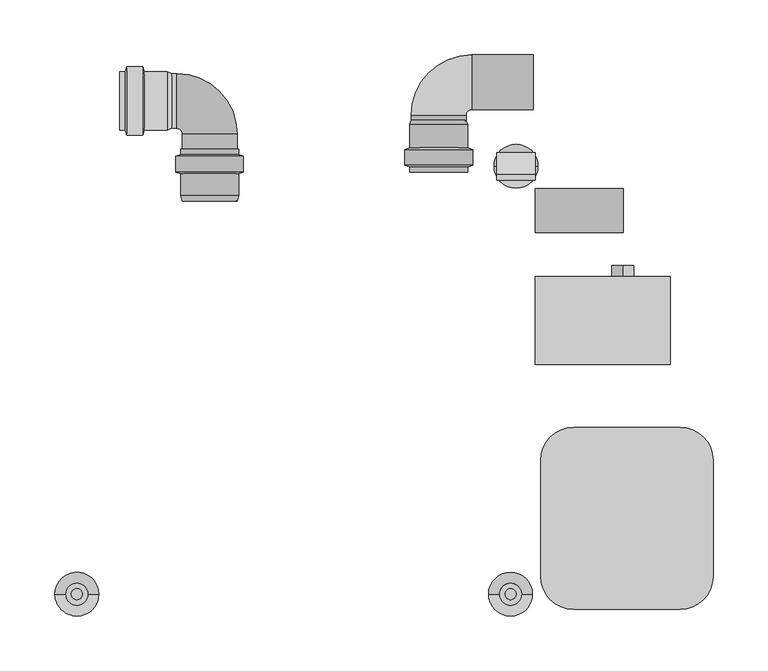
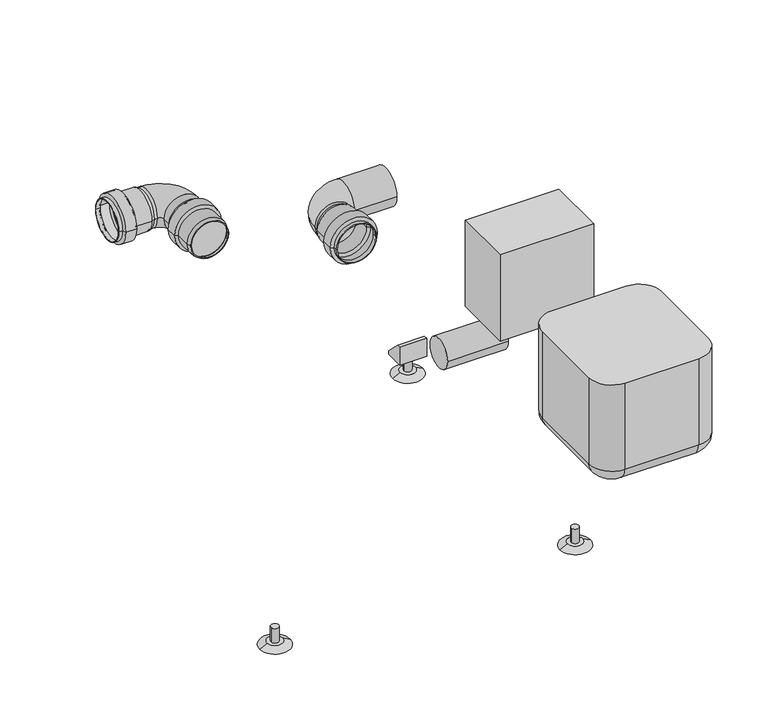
"""IFC4 building model written with IfcOpenShell, lengths in millimetres: unitary equipment geometry, ME_ST_UN_AGC grease capture_ACO : AGC 050 Push-fit HT / ACO pipe (OD 50mm)."""

from ifc_helpers import new_model, si_unit, point, frame, frame_2d, origin, place, context, project, spatial, polyline, circle_curve, ellipse_curve, trimmed, segment, composite_curve, outline, extrude, source, transform, mapped, element, save
from ifc_brep_helpers import plane_surface, cylinder_surface, revolved_surface, advanced_brep


def unitary_equipment_5b484c78(model_context):
    return source(origin(), model_context, "Body", "SolidModel", [
        advanced_brep(
        [(-158.5, 246.5, 303.0), (-158.5, 297.5, 303.0), (-152.9, 297.5, 303.0), (-152.9, 246.5, 303.0), (-158.5, 245.5, 303.0), (-158.5, 298.5, 303.0), (-153.6057737, 245.5, 303.0), (-153.6057737, 298.5, 303.0), (-152.0057737, 241.0, 303.0), (-152.0057737, 303.0, 303.0), (-137.6792408, 241.0, 303.0), (-137.6792408, 303.0, 303.0), (-136.1792408, 245.5, 303.0), (-136.1792408, 298.5, 303.0), (-115.1097736, 245.5, 303.0), (-115.1097736, 298.5, 303.0), (-111.1328335, 247.0698448, 303.0), (-111.1328335, 296.9301552, 303.0), (-111.5, 248.0, 303.0), (-111.5, 296.0, 303.0), (-115.3, 246.5, 303.0), (-115.3, 297.5, 303.0), (-136.9, 246.5, 303.0), (-136.9, 297.5, 303.0), (-138.4, 242.0, 303.0), (-138.4, 302.0, 303.0), (-151.3, 242.0, 303.0), (-151.3, 302.0, 303.0)],
        [
            (0, 1, circle_curve(frame((-158.5, 272.0, 303.0), z_axis=(-1.0, 0.0, 0.0), x_axis=(0.0, 1.0, 0.0)), 25.5)),
            (1, 2),
            (2, 3, circle_curve(frame((-152.9, 272.0, 303.0), z_axis=(1.0, 0.0, 0.0), x_axis=(0.0, 1.0, 0.0)), 25.5)),
            (3, 0),
            (1, 0, circle_curve(frame((-158.5, 272.0, 303.0), z_axis=(-1.0, 0.0, 0.0), x_axis=(0.0, 1.0, 0.0)), 25.5)),
            (3, 2, circle_curve(frame((-152.9, 272.0, 303.0), z_axis=(1.0, 0.0, 0.0), x_axis=(0.0, 1.0, 0.0)), 25.5)),
            (4, 5, circle_curve(frame((-158.5, 272.0, 303.0), z_axis=(-1.0, 0.0, 0.0), x_axis=(0.0, 1.0, 0.0)), 26.5)),
            (5, 1),
            (0, 4),
            (5, 4, circle_curve(frame((-158.5, 272.0, 303.0), z_axis=(-1.0, 0.0, 0.0), x_axis=(0.0, 1.0, 0.0)), 26.5)),
            (6, 7, circle_curve(frame((-153.6057737, 272.0, 303.0), z_axis=(-1.0, 0.0, 0.0), x_axis=(0.0, 1.0, 0.0)), 26.5)),
            (7, 5),
            (4, 6),
            (7, 6, circle_curve(frame((-153.6057737, 272.0, 303.0), z_axis=(-1.0, 0.0, 0.0), x_axis=(0.0, 1.0, 0.0)), 26.5)),
            (8, 9, circle_curve(frame((-152.0057737, 272.0, 303.0), z_axis=(-1.0, 0.0, 0.0), x_axis=(0.0, 1.0, 0.0)), 31.0)),
            (9, 7),
            (6, 8),
            (9, 8, circle_curve(frame((-152.0057737, 272.0, 303.0), z_axis=(-1.0, 0.0, 0.0), x_axis=(0.0, 1.0, 0.0)), 31.0)),
            (10, 11, circle_curve(frame((-137.6792408, 272.0, 303.0), z_axis=(-1.0, 0.0, 0.0), x_axis=(0.0, 1.0, 0.0)), 31.0)),
            (11, 9),
            (8, 10),
            (11, 10, circle_curve(frame((-137.6792408, 272.0, 303.0), z_axis=(-1.0, 0.0, 0.0), x_axis=(0.0, 1.0, 0.0)), 31.0)),
            (12, 13, circle_curve(frame((-136.1792408, 272.0, 303.0), z_axis=(-1.0, 0.0, 0.0), x_axis=(0.0, 1.0, 0.0)), 26.5)),
            (13, 11),
            (10, 12),
            (13, 12, circle_curve(frame((-136.1792408, 272.0, 303.0), z_axis=(-1.0, 0.0, 0.0), x_axis=(0.0, 1.0, 0.0)), 26.5)),
            (14, 15, circle_curve(frame((-115.1097736, 272.0, 303.0), z_axis=(-1.0, 0.0, 0.0), x_axis=(0.0, 1.0, 0.0)), 26.5)),
            (15, 13),
            (12, 14),
            (15, 14, circle_curve(frame((-115.1097736, 272.0, 303.0), z_axis=(-1.0, 0.0, 0.0), x_axis=(0.0, 1.0, 0.0)), 26.5)),
            (16, 17, circle_curve(frame((-111.1328335, 272.0, 303.0), z_axis=(-1.0, 0.0, 0.0), x_axis=(0.0, 1.0, 0.0)), 24.9301552)),
            (17, 15),
            (14, 16),
            (17, 16, circle_curve(frame((-111.1328335, 272.0, 303.0), z_axis=(-1.0, 0.0, 0.0), x_axis=(0.0, 1.0, 0.0)), 24.9301552)),
            (18, 19, circle_curve(frame((-111.5, 272.0, 303.0), z_axis=(-1.0, 0.0, 0.0), x_axis=(0.0, 1.0, 0.0)), 24.0)),
            (19, 17),
            (16, 18),
            (19, 18, circle_curve(frame((-111.5, 272.0, 303.0), z_axis=(-1.0, 0.0, 0.0), x_axis=(0.0, 1.0, 0.0)), 24.0)),
            (20, 21, circle_curve(frame((-115.3, 272.0, 303.0), z_axis=(-1.0, 0.0, 0.0), x_axis=(0.0, 1.0, 0.0)), 25.5)),
            (21, 19),
            (18, 20),
            (21, 20, circle_curve(frame((-115.3, 272.0, 303.0), z_axis=(-1.0, 0.0, 0.0), x_axis=(0.0, 1.0, 0.0)), 25.5)),
            (22, 23, circle_curve(frame((-136.9, 272.0, 303.0), z_axis=(-1.0, 0.0, 0.0), x_axis=(0.0, 1.0, 0.0)), 25.5)),
            (23, 21),
            (20, 22),
            (23, 22, circle_curve(frame((-136.9, 272.0, 303.0), z_axis=(-1.0, 0.0, 0.0), x_axis=(0.0, 1.0, 0.0)), 25.5)),
            (24, 25, circle_curve(frame((-138.4, 272.0, 303.0), z_axis=(-1.0, 0.0, 0.0), x_axis=(0.0, 1.0, 0.0)), 30.0)),
            (25, 23),
            (22, 24),
            (25, 24, circle_curve(frame((-138.4, 272.0, 303.0), z_axis=(-1.0, 0.0, 0.0), x_axis=(0.0, 1.0, 0.0)), 30.0)),
            (26, 27, circle_curve(frame((-151.3, 272.0, 303.0), z_axis=(-1.0, 0.0, 0.0), x_axis=(0.0, 1.0, 0.0)), 30.0)),
            (27, 25),
            (24, 26),
            (27, 26, circle_curve(frame((-151.3, 272.0, 303.0), z_axis=(-1.0, 0.0, 0.0), x_axis=(0.0, 1.0, 0.0)), 30.0)),
            (2, 27),
            (26, 3),
        ],
        [
            revolved_surface(polyline([(-152.9, 297.5, 303.0), (-158.5, 297.5, 303.0)]), (-99.031054, 272.0, 303.0), (1.0, 0.0, 0.0)),
            plane_surface(frame((-158.5, 272.0, 303.0), z_axis=(-1.0, 0.0, 0.0), x_axis=(0.0, 1.0, 0.0))),
            cylinder_surface(frame((-99.031054, 272.0, 303.0), z_axis=(1.0, 0.0, 0.0), x_axis=(0.0, 1.0, 0.0)), 26.5),
            revolved_surface(polyline([(-153.6057737, 298.5, 303.0), (-152.0057737, 303.0, 303.0)]), (-99.031054, 272.0, 303.0), (1.0, 0.0, 0.0)),
            cylinder_surface(frame((-99.031054, 272.0, 303.0), z_axis=(1.0, 0.0, 0.0), x_axis=(0.0, 1.0, 0.0)), 31.0),
            revolved_surface(polyline([(-137.6792408, 303.0, 303.0), (-136.1792408, 298.5, 303.0)]), (-99.031054, 272.0, 303.0), (1.0, 0.0, 0.0)),
            revolved_surface(polyline([(-115.1097736, 298.5, 303.0), (-111.1328335, 296.9301552, 303.0)]), (-99.031054, 272.0, 303.0), (1.0, 0.0, 0.0)),
            revolved_surface(polyline([(-111.1328335, 296.9301552, 303.0), (-111.5, 296.0, 303.0)]), (-99.031054, 272.0, 303.0), (1.0, 0.0, 0.0)),
            revolved_surface(polyline([(-111.5, 296.0, 303.0), (-115.3, 297.5, 303.0)]), (-99.031054, 272.0, 303.0), (1.0, 0.0, 0.0)),
            revolved_surface(polyline([(-115.3, 297.5, 303.0), (-136.9, 297.5, 303.0)]), (-99.031054, 272.0, 303.0), (1.0, 0.0, 0.0)),
            revolved_surface(polyline([(-136.9, 297.5, 303.0), (-138.4, 302.0, 303.0)]), (-99.031054, 272.0, 303.0), (1.0, 0.0, 0.0)),
            revolved_surface(polyline([(-138.4, 302.0, 303.0), (-151.3, 302.0, 303.0)]), (-99.031054, 272.0, 303.0), (1.0, 0.0, 0.0)),
            revolved_surface(polyline([(-151.3, 302.0, 303.0), (-152.9, 297.5, 303.0)]), (-99.031054, 272.0, 303.0), (1.0, 0.0, 0.0)),
        ],
        [
            (0, [[1, 2, 3, 4]]),
            (0, [[5, -4, 6, -2]]),
            (1, [[7, 8, -1, 9]]),
            (1, [[10, -9, -5, -8]]),
            (2, [[11, 12, -7, 13]]),
            (2, [[14, -13, -10, -12]]),
            (3, [[15, 16, -11, 17]]),
            (3, [[18, -17, -14, -16]]),
            (4, [[19, 20, -15, 21]]),
            (4, [[22, -21, -18, -20]]),
            (5, [[23, 24, -19, 25]]),
            (5, [[26, -25, -22, -24]]),
            (2, [[27, 28, -23, 29]]),
            (2, [[30, -29, -26, -28]]),
            (6, [[31, 32, -27, 33]]),
            (6, [[34, -33, -30, -32]]),
            (7, [[35, 36, -31, 37]]),
            (7, [[38, -37, -34, -36]]),
            (8, [[39, 40, -35, 41]]),
            (8, [[42, -41, -38, -40]]),
            (9, [[43, 44, -39, 45]]),
            (9, [[46, -45, -42, -44]]),
            (10, [[47, 48, -43, 49]]),
            (10, [[50, -49, -46, -48]]),
            (11, [[51, 52, -47, 53]]),
            (11, [[54, -53, -50, -52]]),
            (12, [[-3, 55, -51, 56]]),
            (12, [[-6, -56, -54, -55]]),
        ],
    ),
        advanced_brep(
        [(-46.5, 220.8, 303.0), (-106.5, 220.8, 303.0), (-102.0, 222.4, 303.0), (-51.0, 222.4, 303.0), (-46.5, 207.9, 303.0), (-106.5, 207.9, 303.0), (-51.0, 206.4, 303.0), (-102.0, 206.4, 303.0), (-51.0, 186.0, 303.0), (-102.0, 186.0, 303.0), (-52.5, 181.0, 303.0), (-100.5, 181.0, 303.0), (-51.5421737, 180.7126521, 303.0), (-101.4578263, 180.7126521, 303.0), (-50.0, 185.8532312, 303.0), (-103.0, 185.8532312, 303.0), (-50.0, 205.6792408, 303.0), (-103.0, 205.6792408, 303.0), (-45.7425527, 207.0983899, 303.0), (-107.2574473, 207.0983899, 303.0), (-45.7425527, 221.5920147, 303.0), (-107.2574473, 221.5920147, 303.0), (-50.0, 223.1057737, 303.0), (-103.0, 223.1057737, 303.0), (-50.0, 228.0, 303.0), (-103.0, 228.0, 303.0), (-51.0, 228.0, 303.0), (-102.0, 228.0, 303.0)],
        [
            (0, 1, circle_curve(frame((-76.5, 220.8, 303.0), z_axis=(0.0, -1.0, 0.0), x_axis=(-1.0, 0.0, 0.0)), 30.0)),
            (1, 2),
            (2, 3, circle_curve(frame((-76.5, 222.4, 303.0), z_axis=(0.0, 1.0, 0.0), x_axis=(-1.0, 0.0, 0.0)), 25.5)),
            (3, 0),
            (1, 0, circle_curve(frame((-76.5, 220.8, 303.0), z_axis=(0.0, -1.0, 0.0), x_axis=(-1.0, 0.0, 0.0)), 30.0)),
            (3, 2, circle_curve(frame((-76.5, 222.4, 303.0), z_axis=(0.0, 1.0, 0.0), x_axis=(-1.0, 0.0, 0.0)), 25.5)),
            (4, 5, circle_curve(frame((-76.5, 207.9, 303.0), z_axis=(0.0, -1.0, 0.0), x_axis=(-1.0, 0.0, 0.0)), 30.0)),
            (5, 1),
            (0, 4),
            (5, 4, circle_curve(frame((-76.5, 207.9, 303.0), z_axis=(0.0, -1.0, 0.0), x_axis=(-1.0, 0.0, 0.0)), 30.0)),
            (6, 7, circle_curve(frame((-76.5, 206.4, 303.0), z_axis=(0.0, -1.0, 0.0), x_axis=(-1.0, 0.0, 0.0)), 25.5)),
            (7, 5),
            (4, 6),
            (7, 6, circle_curve(frame((-76.5, 206.4, 303.0), z_axis=(0.0, -1.0, 0.0), x_axis=(-1.0, 0.0, 0.0)), 25.5)),
            (8, 9, circle_curve(frame((-76.5, 186.0, 303.0), z_axis=(0.0, -1.0, 0.0), x_axis=(-1.0, 0.0, 0.0)), 25.5)),
            (9, 7),
            (6, 8),
            (9, 8, circle_curve(frame((-76.5, 186.0, 303.0), z_axis=(0.0, -1.0, 0.0), x_axis=(-1.0, 0.0, 0.0)), 25.5)),
            (10, 11, circle_curve(frame((-76.5, 181.0, 303.0), z_axis=(0.0, -1.0, 0.0), x_axis=(-1.0, 0.0, 0.0)), 24.0)),
            (11, 9),
            (8, 10),
            (11, 10, circle_curve(frame((-76.5, 181.0, 303.0), z_axis=(0.0, -1.0, 0.0), x_axis=(-1.0, 0.0, 0.0)), 24.0)),
            (12, 13, circle_curve(frame((-76.5, 180.7126521, 303.0), z_axis=(0.0, -1.0, 0.0), x_axis=(-1.0, 0.0, 0.0)), 24.9578263)),
            (13, 11),
            (10, 12),
            (13, 12, circle_curve(frame((-76.5, 180.7126521, 303.0), z_axis=(0.0, -1.0, 0.0), x_axis=(-1.0, 0.0, 0.0)), 24.9578263)),
            (14, 15, circle_curve(frame((-76.5, 185.8532312, 303.0), z_axis=(0.0, -1.0, 0.0), x_axis=(-1.0, 0.0, 0.0)), 26.5)),
            (15, 13),
            (12, 14),
            (15, 14, circle_curve(frame((-76.5, 185.8532312, 303.0), z_axis=(0.0, -1.0, 0.0), x_axis=(-1.0, 0.0, 0.0)), 26.5)),
            (16, 17, circle_curve(frame((-76.5, 205.6792408, 303.0), z_axis=(0.0, -1.0, 0.0), x_axis=(-1.0, 0.0, 0.0)), 26.5)),
            (17, 15),
            (14, 16),
            (17, 16, circle_curve(frame((-76.5, 205.6792408, 303.0), z_axis=(0.0, -1.0, 0.0), x_axis=(-1.0, 0.0, 0.0)), 26.5)),
            (18, 19, circle_curve(frame((-76.5, 207.0983899, 303.0), z_axis=(0.0, -1.0, 0.0), x_axis=(-1.0, 0.0, 0.0)), 30.7574473)),
            (19, 17),
            (16, 18),
            (19, 18, circle_curve(frame((-76.5, 207.0983899, 303.0), z_axis=(0.0, -1.0, 0.0), x_axis=(-1.0, 0.0, 0.0)), 30.7574473)),
            (20, 21, circle_curve(frame((-76.5, 221.5920147, 303.0), z_axis=(0.0, -1.0, 0.0), x_axis=(-1.0, 0.0, 0.0)), 30.7574473)),
            (21, 19),
            (18, 20),
            (21, 20, circle_curve(frame((-76.5, 221.5920147, 303.0), z_axis=(0.0, -1.0, 0.0), x_axis=(-1.0, 0.0, 0.0)), 30.7574473)),
            (22, 23, circle_curve(frame((-76.5, 223.1057737, 303.0), z_axis=(0.0, -1.0, 0.0), x_axis=(-1.0, 0.0, 0.0)), 26.5)),
            (23, 21),
            (20, 22),
            (23, 22, circle_curve(frame((-76.5, 223.1057737, 303.0), z_axis=(0.0, -1.0, 0.0), x_axis=(-1.0, 0.0, 0.0)), 26.5)),
            (24, 25, circle_curve(frame((-76.5, 228.0, 303.0), z_axis=(0.0, -1.0, 0.0), x_axis=(-1.0, 0.0, 0.0)), 26.5)),
            (25, 23),
            (22, 24),
            (25, 24, circle_curve(frame((-76.5, 228.0, 303.0), z_axis=(0.0, -1.0, 0.0), x_axis=(-1.0, 0.0, 0.0)), 26.5)),
            (26, 27, circle_curve(frame((-76.5, 228.0, 303.0), z_axis=(0.0, -1.0, 0.0), x_axis=(-1.0, 0.0, 0.0)), 25.5)),
            (27, 25),
            (24, 26),
            (27, 26, circle_curve(frame((-76.5, 228.0, 303.0), z_axis=(0.0, -1.0, 0.0), x_axis=(-1.0, 0.0, 0.0)), 25.5)),
            (2, 27),
            (26, 3),
        ],
        [
            revolved_surface(polyline([(-102.0, 222.4, 303.0), (-106.5, 220.8, 303.0)]), (-76.5, 225.2050583, 303.0), (0.0, 1.0, 0.0)),
            revolved_surface(polyline([(-106.5, 220.8, 303.0), (-106.5, 207.9, 303.0)]), (-76.5, 225.2050583, 303.0), (0.0, 1.0, 0.0)),
            revolved_surface(polyline([(-106.5, 207.9, 303.0), (-102.0, 206.4, 303.0)]), (-76.5, 225.2050583, 303.0), (0.0, 1.0, 0.0)),
            revolved_surface(polyline([(-102.0, 206.4, 303.0), (-102.0, 186.0, 303.0)]), (-76.5, 225.2050583, 303.0), (0.0, 1.0, 0.0)),
            revolved_surface(polyline([(-102.0, 186.0, 303.0), (-100.5, 181.0, 303.0)]), (-76.5, 225.2050583, 303.0), (0.0, 1.0, 0.0)),
            revolved_surface(polyline([(-100.5, 181.0, 303.0), (-101.4578263, 180.7126521, 303.0)]), (-76.5, 225.2050583, 303.0), (0.0, 1.0, 0.0)),
            revolved_surface(polyline([(-101.4578263, 180.7126521, 303.0), (-103.0, 185.8532312, 303.0)]), (-76.5, 225.2050583, 303.0), (0.0, 1.0, 0.0)),
            cylinder_surface(frame((-76.5, 225.2050583, 303.0), z_axis=(0.0, 1.0, 0.0), x_axis=(-1.0, 0.0, 0.0)), 26.5),
            revolved_surface(polyline([(-103.0, 205.6792408, 303.0), (-107.2574473, 207.0983899, 303.0)]), (-76.5, 225.2050583, 303.0), (0.0, 1.0, 0.0)),
            cylinder_surface(frame((-76.5, 225.2050583, 303.0), z_axis=(0.0, 1.0, 0.0), x_axis=(-1.0, 0.0, 0.0)), 30.7574473),
            revolved_surface(polyline([(-107.2574473, 221.5920147, 303.0), (-103.0, 223.1057737, 303.0)]), (-76.5, 225.2050583, 303.0), (0.0, 1.0, 0.0)),
            plane_surface(frame((-76.5, 228.0, 303.0), z_axis=(0.0, 1.0, 0.0), x_axis=(-1.0, 0.0, 0.0))),
            revolved_surface(polyline([(-102.0, 228.0, 303.0), (-102.0, 222.4, 303.0)]), (-76.5, 225.2050583, 303.0), (0.0, 1.0, 0.0)),
        ],
        [
            (0, [[1, 2, 3, 4]]),
            (0, [[5, -4, 6, -2]]),
            (1, [[7, 8, -1, 9]]),
            (1, [[10, -9, -5, -8]]),
            (2, [[11, 12, -7, 13]]),
            (2, [[14, -13, -10, -12]]),
            (3, [[15, 16, -11, 17]]),
            (3, [[18, -17, -14, -16]]),
            (4, [[19, 20, -15, 21]]),
            (4, [[22, -21, -18, -20]]),
            (5, [[23, 24, -19, 25]]),
            (5, [[26, -25, -22, -24]]),
            (6, [[27, 28, -23, 29]]),
            (6, [[30, -29, -26, -28]]),
            (7, [[31, 32, -27, 33]]),
            (7, [[34, -33, -30, -32]]),
            (8, [[35, 36, -31, 37]]),
            (8, [[38, -37, -34, -36]]),
            (9, [[39, 40, -35, 41]]),
            (9, [[42, -41, -38, -40]]),
            (10, [[43, 44, -39, 45]]),
            (10, [[46, -45, -42, -44]]),
            (7, [[47, 48, -43, 49]]),
            (7, [[50, -49, -46, -48]]),
            (11, [[51, 52, -47, 53]]),
            (11, [[54, -53, -50, -52]]),
            (12, [[-3, 55, -51, 56]]),
            (12, [[-6, -56, -54, -55]]),
        ],
    ),
        advanced_brep(
        [(-101.5, 242.0, 303.0), (-106.5, 247.0, 303.0), (-106.5, 297.0, 303.0), (-51.5, 242.0, 303.0), (-116.5, 297.0, 303.0), (-116.5, 247.0, 303.0), (-51.5, 186.0, 303.0), (-101.5, 186.0, 303.0)],
        [
            (0, 1, circle_curve(frame((-106.5, 242.0, 303.0), z_axis=(0.0, 0.0, 1.0), x_axis=(0.0, 1.0, 0.0)), 5.0)),
            (1, 2, circle_curve(frame((-106.5, 272.0, 303.0), z_axis=(1.0, 0.0, 0.0), x_axis=(0.0, -1.0, 0.0)), 25.0)),
            (2, 3, circle_curve(frame((-106.5, 242.0, 303.0), z_axis=(0.0, 0.0, -1.0), x_axis=(0.0, 1.0, 0.0)), 55.0)),
            (3, 0, circle_curve(frame((-76.5, 242.0, 303.0), z_axis=(0.0, 1.0, 0.0), x_axis=(-1.0, 0.0, 0.0)), 25.0)),
            (0, 3, circle_curve(frame((-76.5, 242.0, 303.0), z_axis=(0.0, 1.0, 0.0), x_axis=(-1.0, 0.0, 0.0)), 25.0)),
            (2, 1, circle_curve(frame((-106.5, 272.0, 303.0), z_axis=(1.0, 0.0, 0.0), x_axis=(0.0, -1.0, 0.0)), 25.0)),
            (4, 5, circle_curve(frame((-116.5, 272.0, 303.0), z_axis=(-1.0, 0.0, 0.0), x_axis=(0.0, -1.0, 0.0)), 25.0)),
            (5, 4, circle_curve(frame((-116.5, 272.0, 303.0), z_axis=(-1.0, 0.0, 0.0), x_axis=(0.0, -1.0, 0.0)), 25.0)),
            (5, 1),
            (2, 4),
            (6, 7, circle_curve(frame((-76.5, 186.0, 303.0), z_axis=(0.0, -1.0, 0.0), x_axis=(-1.0, 0.0, 0.0)), 25.0)),
            (7, 6, circle_curve(frame((-76.5, 186.0, 303.0), z_axis=(0.0, -1.0, 0.0), x_axis=(-1.0, 0.0, 0.0)), 25.0)),
            (7, 0),
            (3, 6),
        ],
        [
            revolved_surface(trimmed(ellipse_curve(frame((-106.5, 272.0, 303.0), z_axis=(-1.0, 0.0, 0.0), x_axis=(0.0, -1.0, 0.0)), 25.0, 25.0), [point((-106.5, 297.0, 303.0))], [point((-106.5, 247.0, 303.0))], True, "CARTESIAN"), (-106.5, 242.0, 303.0), (0.0, 0.0, -1.0)),
            revolved_surface(trimmed(ellipse_curve(frame((-106.5, 272.0, 303.0), z_axis=(-1.0, 0.0, 0.0), x_axis=(0.0, -1.0, 0.0)), 25.0, 25.0), [point((-106.5, 247.0, 303.0))], [point((-106.5, 297.0, 303.0))], True, "CARTESIAN"), (-106.5, 242.0, 303.0), (0.0, 0.0, -1.0)),
            plane_surface(frame((-116.5, 247.0, 303.0), z_axis=(-1.0, 0.0, 0.0), x_axis=(0.0, 0.0, 1.0))),
            cylinder_surface(frame((-116.5, 272.0, 303.0), z_axis=(1.0, 0.0, 0.0), x_axis=(0.0, -1.0, 0.0)), 25.0),
            plane_surface(frame((-76.5, 186.0, 303.0), z_axis=(0.0, -1.0, 0.0), x_axis=(0.0, 0.0, -1.0))),
            cylinder_surface(frame((-76.5, 242.0, 303.0), z_axis=(0.0, 1.0, 0.0), x_axis=(-1.0, 0.0, 0.0)), 25.0),
        ],
        [
            (0, [[1, 2, 3, 4]]),
            (1, [[-1, 5, -3, 6]]),
            (2, [[7, 8]]),
            (3, [[-8, 9, -6, 10]]),
            (3, [[-7, -10, -2, -9]]),
            (4, [[11, 12]]),
            (5, [[-12, 13, -4, 14]]),
            (5, [[-11, -14, -5, -13]]),
        ],
    ),
        advanced_brep(
        [(106.5, 207.0, 209.0), (157.5, 207.0, 209.0), (157.5, 212.6, 209.0), (106.5, 212.6, 209.0), (105.5, 207.0, 209.0), (158.5, 207.0, 209.0), (105.5, 211.8942263, 209.0), (158.5, 211.8942263, 209.0), (101.0, 213.4942263, 209.0), (163.0, 213.4942263, 209.0), (101.0, 227.8207592, 209.0), (163.0, 227.8207592, 209.0), (105.5, 229.3207592, 209.0), (158.5, 229.3207592, 209.0), (105.5, 250.3902264, 209.0), (158.5, 250.3902264, 209.0), (107.0698448, 254.3671665, 209.0), (156.9301552, 254.3671665, 209.0), (108.0, 254.0, 209.0), (156.0, 254.0, 209.0), (106.5, 250.2, 209.0), (157.5, 250.2, 209.0), (106.5, 228.6, 209.0), (157.5, 228.6, 209.0), (102.0, 227.1, 209.0), (162.0, 227.1, 209.0), (102.0, 214.2, 209.0), (162.0, 214.2, 209.0)],
        [
            (0, 1, circle_curve(frame((132.0, 207.0, 209.0), z_axis=(0.0, -1.0, 0.0), x_axis=(1.0, 0.0, 0.0)), 25.5)),
            (1, 2),
            (2, 3, circle_curve(frame((132.0, 212.6, 209.0), z_axis=(0.0, 1.0, 0.0), x_axis=(1.0, 0.0, 0.0)), 25.5)),
            (3, 0),
            (1, 0, circle_curve(frame((132.0, 207.0, 209.0), z_axis=(0.0, -1.0, 0.0), x_axis=(1.0, 0.0, 0.0)), 25.5)),
            (3, 2, circle_curve(frame((132.0, 212.6, 209.0), z_axis=(0.0, 1.0, 0.0), x_axis=(1.0, 0.0, 0.0)), 25.5)),
            (4, 5, circle_curve(frame((132.0, 207.0, 209.0), z_axis=(0.0, -1.0, 0.0), x_axis=(1.0, 0.0, 0.0)), 26.5)),
            (5, 1),
            (0, 4),
            (5, 4, circle_curve(frame((132.0, 207.0, 209.0), z_axis=(0.0, -1.0, 0.0), x_axis=(1.0, 0.0, 0.0)), 26.5)),
            (6, 7, circle_curve(frame((132.0, 211.8942263, 209.0), z_axis=(0.0, -1.0, 0.0), x_axis=(1.0, 0.0, 0.0)), 26.5)),
            (7, 5),
            (4, 6),
            (7, 6, circle_curve(frame((132.0, 211.8942263, 209.0), z_axis=(0.0, -1.0, 0.0), x_axis=(1.0, 0.0, 0.0)), 26.5)),
            (8, 9, circle_curve(frame((132.0, 213.4942263, 209.0), z_axis=(0.0, -1.0, 0.0), x_axis=(1.0, 0.0, 0.0)), 31.0)),
            (9, 7),
            (6, 8),
            (9, 8, circle_curve(frame((132.0, 213.4942263, 209.0), z_axis=(0.0, -1.0, 0.0), x_axis=(1.0, 0.0, 0.0)), 31.0)),
            (10, 11, circle_curve(frame((132.0, 227.8207592, 209.0), z_axis=(0.0, -1.0, 0.0), x_axis=(1.0, 0.0, 0.0)), 31.0)),
            (11, 9),
            (8, 10),
            (11, 10, circle_curve(frame((132.0, 227.8207592, 209.0), z_axis=(0.0, -1.0, 0.0), x_axis=(1.0, 0.0, 0.0)), 31.0)),
            (12, 13, circle_curve(frame((132.0, 229.3207592, 209.0), z_axis=(0.0, -1.0, 0.0), x_axis=(1.0, 0.0, 0.0)), 26.5)),
            (13, 11),
            (10, 12),
            (13, 12, circle_curve(frame((132.0, 229.3207592, 209.0), z_axis=(0.0, -1.0, 0.0), x_axis=(1.0, 0.0, 0.0)), 26.5)),
            (14, 15, circle_curve(frame((132.0, 250.3902264, 209.0), z_axis=(0.0, -1.0, 0.0), x_axis=(1.0, 0.0, 0.0)), 26.5)),
            (15, 13),
            (12, 14),
            (15, 14, circle_curve(frame((132.0, 250.3902264, 209.0), z_axis=(0.0, -1.0, 0.0), x_axis=(1.0, 0.0, 0.0)), 26.5)),
            (16, 17, circle_curve(frame((132.0, 254.3671665, 209.0), z_axis=(0.0, -1.0, 0.0), x_axis=(1.0, 0.0, 0.0)), 24.9301552)),
            (17, 15),
            (14, 16),
            (17, 16, circle_curve(frame((132.0, 254.3671665, 209.0), z_axis=(0.0, -1.0, 0.0), x_axis=(1.0, 0.0, 0.0)), 24.9301552)),
            (18, 19, circle_curve(frame((132.0, 254.0, 209.0), z_axis=(0.0, -1.0, 0.0), x_axis=(1.0, 0.0, 0.0)), 24.0)),
            (19, 17),
            (16, 18),
            (19, 18, circle_curve(frame((132.0, 254.0, 209.0), z_axis=(0.0, -1.0, 0.0), x_axis=(1.0, 0.0, 0.0)), 24.0)),
            (20, 21, circle_curve(frame((132.0, 250.2, 209.0), z_axis=(0.0, -1.0, 0.0), x_axis=(1.0, 0.0, 0.0)), 25.5)),
            (21, 19),
            (18, 20),
            (21, 20, circle_curve(frame((132.0, 250.2, 209.0), z_axis=(0.0, -1.0, 0.0), x_axis=(1.0, 0.0, 0.0)), 25.5)),
            (22, 23, circle_curve(frame((132.0, 228.6, 209.0), z_axis=(0.0, -1.0, 0.0), x_axis=(1.0, 0.0, 0.0)), 25.5)),
            (23, 21),
            (20, 22),
            (23, 22, circle_curve(frame((132.0, 228.6, 209.0), z_axis=(0.0, -1.0, 0.0), x_axis=(1.0, 0.0, 0.0)), 25.5)),
            (24, 25, circle_curve(frame((132.0, 227.1, 209.0), z_axis=(0.0, -1.0, 0.0), x_axis=(1.0, 0.0, 0.0)), 30.0)),
            (25, 23),
            (22, 24),
            (25, 24, circle_curve(frame((132.0, 227.1, 209.0), z_axis=(0.0, -1.0, 0.0), x_axis=(1.0, 0.0, 0.0)), 30.0)),
            (26, 27, circle_curve(frame((132.0, 214.2, 209.0), z_axis=(0.0, -1.0, 0.0), x_axis=(1.0, 0.0, 0.0)), 30.0)),
            (27, 25),
            (24, 26),
            (27, 26, circle_curve(frame((132.0, 214.2, 209.0), z_axis=(0.0, -1.0, 0.0), x_axis=(1.0, 0.0, 0.0)), 30.0)),
            (2, 27),
            (26, 3),
        ],
        [
            revolved_surface(polyline([(157.5, 212.6, 209.0), (157.5, 207.0, 209.0)]), (132.0, 266.468946, 209.0), (0.0, 1.0, 0.0)),
            plane_surface(frame((132.0, 207.0, 209.0), z_axis=(0.0, -1.0, 0.0), x_axis=(1.0, 0.0, 0.0))),
            cylinder_surface(frame((132.0, 266.468946, 209.0), z_axis=(0.0, 1.0, 0.0), x_axis=(1.0, 0.0, 0.0)), 26.5),
            revolved_surface(polyline([(158.5, 211.8942263, 209.0), (163.0, 213.4942263, 209.0)]), (132.0, 266.468946, 209.0), (0.0, 1.0, 0.0)),
            cylinder_surface(frame((132.0, 266.468946, 209.0), z_axis=(0.0, 1.0, 0.0), x_axis=(1.0, 0.0, 0.0)), 31.0),
            revolved_surface(polyline([(163.0, 227.8207592, 209.0), (158.5, 229.3207592, 209.0)]), (132.0, 266.468946, 209.0), (0.0, 1.0, 0.0)),
            revolved_surface(polyline([(158.5, 250.3902264, 209.0), (156.9301552, 254.3671665, 209.0)]), (132.0, 266.468946, 209.0), (0.0, 1.0, 0.0)),
            revolved_surface(polyline([(156.9301552, 254.3671665, 209.0), (156.0, 254.0, 209.0)]), (132.0, 266.468946, 209.0), (0.0, 1.0, 0.0)),
            revolved_surface(polyline([(156.0, 254.0, 209.0), (157.5, 250.2, 209.0)]), (132.0, 266.468946, 209.0), (0.0, 1.0, 0.0)),
            revolved_surface(polyline([(157.5, 250.2, 209.0), (157.5, 228.6, 209.0)]), (132.0, 266.468946, 209.0), (0.0, 1.0, 0.0)),
            revolved_surface(polyline([(157.5, 228.6, 209.0), (162.0, 227.1, 209.0)]), (132.0, 266.468946, 209.0), (0.0, 1.0, 0.0)),
            revolved_surface(polyline([(162.0, 227.1, 209.0), (162.0, 214.2, 209.0)]), (132.0, 266.468946, 209.0), (0.0, 1.0, 0.0)),
            revolved_surface(polyline([(162.0, 214.2, 209.0), (157.5, 212.6, 209.0)]), (132.0, 266.468946, 209.0), (0.0, 1.0, 0.0)),
        ],
        [
            (0, [[1, 2, 3, 4]]),
            (0, [[5, -4, 6, -2]]),
            (1, [[7, 8, -1, 9]]),
            (1, [[10, -9, -5, -8]]),
            (2, [[11, 12, -7, 13]]),
            (2, [[14, -13, -10, -12]]),
            (3, [[15, 16, -11, 17]]),
            (3, [[18, -17, -14, -16]]),
            (4, [[19, 20, -15, 21]]),
            (4, [[22, -21, -18, -20]]),
            (5, [[23, 24, -19, 25]]),
            (5, [[26, -25, -22, -24]]),
            (2, [[27, 28, -23, 29]]),
            (2, [[30, -29, -26, -28]]),
            (6, [[31, 32, -27, 33]]),
            (6, [[34, -33, -30, -32]]),
            (7, [[35, 36, -31, 37]]),
            (7, [[38, -37, -34, -36]]),
            (8, [[39, 40, -35, 41]]),
            (8, [[42, -41, -38, -40]]),
            (9, [[43, 44, -39, 45]]),
            (9, [[46, -45, -42, -44]]),
            (10, [[47, 48, -43, 49]]),
            (10, [[50, -49, -46, -48]]),
            (11, [[51, 52, -47, 53]]),
            (11, [[54, -53, -50, -52]]),
            (12, [[-3, 55, -51, 56]]),
            (12, [[-6, -56, -54, -55]]),
        ],
    ),
        advanced_brep(
        [(157.0, 259.0, 209.0), (162.0, 264.0, 209.0), (162.0, 314.0, 209.0), (107.0, 259.0, 209.0), (218.0, 314.0, 209.0), (218.0, 264.0, 209.0), (107.0, 249.0, 209.0), (157.0, 249.0, 209.0)],
        [
            (0, 1, circle_curve(frame((162.0, 259.0, 209.0), z_axis=(0.0, 0.0, -1.0), x_axis=(0.0, 1.0, 0.0)), 5.0)),
            (1, 2, circle_curve(frame((162.0, 289.0, 209.0), z_axis=(-1.0, 0.0, 0.0), x_axis=(0.0, -1.0, 0.0)), 25.0)),
            (2, 3, circle_curve(frame((162.0, 259.0, 209.0), z_axis=(0.0, 0.0, 1.0), x_axis=(0.0, 1.0, 0.0)), 55.0)),
            (3, 0, circle_curve(frame((132.0, 259.0, 209.0), z_axis=(0.0, 1.0, 0.0), x_axis=(1.0, 0.0, 0.0)), 25.0)),
            (0, 3, circle_curve(frame((132.0, 259.0, 209.0), z_axis=(0.0, 1.0, 0.0), x_axis=(1.0, 0.0, 0.0)), 25.0)),
            (2, 1, circle_curve(frame((162.0, 289.0, 209.0), z_axis=(-1.0, 0.0, 0.0), x_axis=(0.0, -1.0, 0.0)), 25.0)),
            (4, 5, circle_curve(frame((218.0, 289.0, 209.0), z_axis=(1.0, 0.0, 0.0), x_axis=(0.0, -1.0, 0.0)), 25.0)),
            (5, 4, circle_curve(frame((218.0, 289.0, 209.0), z_axis=(1.0, 0.0, 0.0), x_axis=(0.0, -1.0, 0.0)), 25.0)),
            (5, 1),
            (2, 4),
            (6, 7, circle_curve(frame((132.0, 249.0, 209.0), z_axis=(0.0, -1.0, 0.0), x_axis=(1.0, 0.0, 0.0)), 25.0)),
            (7, 6, circle_curve(frame((132.0, 249.0, 209.0), z_axis=(0.0, -1.0, 0.0), x_axis=(1.0, 0.0, 0.0)), 25.0)),
            (7, 0),
            (3, 6),
        ],
        [
            revolved_surface(trimmed(ellipse_curve(frame((162.0, 289.0, 209.0), z_axis=(1.0, 0.0, 0.0), x_axis=(0.0, -1.0, 0.0)), 25.0, 25.0), [point((162.0, 314.0, 209.0))], [point((162.0, 264.0, 209.0))], True, "CARTESIAN"), (162.0, 259.0, 209.0), (0.0, 0.0, 1.0)),
            revolved_surface(trimmed(ellipse_curve(frame((162.0, 289.0, 209.0), z_axis=(1.0, 0.0, 0.0), x_axis=(0.0, -1.0, 0.0)), 25.0, 25.0), [point((162.0, 264.0, 209.0))], [point((162.0, 314.0, 209.0))], True, "CARTESIAN"), (162.0, 259.0, 209.0), (0.0, 0.0, 1.0)),
            plane_surface(frame((218.0, 264.0, 209.0), z_axis=(1.0, 0.0, 0.0), x_axis=(0.0, 0.0, -1.0))),
            cylinder_surface(frame((218.0, 289.0, 209.0), z_axis=(-1.0, 0.0, 0.0), x_axis=(0.0, -1.0, 0.0)), 25.0),
            plane_surface(frame((132.0, 249.0, 209.0), z_axis=(0.0, -1.0, 0.0), x_axis=(0.0, 0.0, 1.0))),
            cylinder_surface(frame((132.0, 259.0, 209.0), z_axis=(0.0, 1.0, 0.0), x_axis=(1.0, 0.0, 0.0)), 25.0),
        ],
        [
            (0, [[1, 2, 3, 4]]),
            (1, [[-1, 5, -3, 6]]),
            (2, [[7, 8]]),
            (3, [[-8, 9, -6, 10]]),
            (3, [[-7, -10, -2, -9]]),
            (4, [[11, 12]]),
            (5, [[-12, 13, -4, 14]]),
            (5, [[-11, -14, -5, -13]]),
        ],
    ),
        extrude(outline(composite_curve([segment(trimmed(circle_curve(frame_2d((208.0, 299.6526818)), 10.0), [point((198.0, 299.6526818))], [point((218.0, 299.6526818))], False, "CARTESIAN"), True, "CONTINUOUS"), segment(trimmed(circle_curve(frame_2d((208.0, 299.6526818)), 10.0), [point((218.0, 299.6526818))], [point((198.0, 299.6526818))], False, "CARTESIAN"), True, "CONTINUOUS")], self_intersect=False)), frame((0.0, 112.0, 0.0), z_axis=(0.0, 1.0, 0.0), x_axis=(0.0, 0.0, 1.0)), (0.0, 0.0, 1.0), 10.0),
        extrude(outline(polyline([(343.0, 112.0), (343.0, 32.0), (220.0, 32.0), (220.0, 112.0), (343.0, 112.0)])), frame((0.0, 0.0, 148.0), z_axis=(0.0, 0.0, 1.0), x_axis=(1.0, 0.0, 0.0)), (0.0, 0.0, 1.0), 120.0),
        extrude(outline(composite_curve([segment(trimmed(circle_curve(frame_2d((172.0, 47.0)), 20.0), [point((192.0, 47.0))], [point((152.0, 47.0))], False, "CARTESIAN"), True, "CONTINUOUS"), segment(trimmed(circle_curve(frame_2d((172.0, 47.0)), 20.0), [point((152.0, 47.0))], [point((192.0, 47.0))], False, "CARTESIAN"), True, "CONTINUOUS")], self_intersect=False)), frame((220.0, 0.0, 0.0), z_axis=(1.0, 0.0, 0.0), x_axis=(0.0, 1.0, 0.0)), (0.0, 0.0, 1.0), 80.0),
        advanced_brep(
        [(362.0, -161.3497944, 73.0), (352.0, -171.3497944, 73.0), (255.0, -171.3497944, 73.0), (245.0, -161.3497944, 73.0), (245.0, -55.5, 73.0), (255.0, -45.5, 73.0), (352.0, -45.5, 73.0), (362.0, -55.5, 73.0), (352.0, -25.5, 213.0), (255.0, -25.5, 213.0), (225.0, -55.5, 213.0), (225.0, -161.3497944, 213.0), (255.0, -191.3497944, 213.0), (352.0, -191.3497944, 213.0), (382.0, -161.3497944, 213.0), (382.0, -55.5, 213.0), (352.0, -25.5, 93.0), (255.0, -25.5, 93.0), (225.0, -55.5, 93.0), (225.0, -161.3497944, 93.0), (255.0, -191.3497944, 93.0), (352.0, -191.3497944, 93.0), (382.0, -161.3497944, 93.0), (382.0, -55.5, 93.0)],
        [
            (0, 1, circle_curve(frame((352.0, -161.3497944, 73.0), z_axis=(0.0, 0.0, -1.0), x_axis=(1.0, 0.0, 0.0)), 10.0)),
            (1, 2),
            (2, 3, circle_curve(frame((255.0, -161.3497944, 73.0), z_axis=(0.0, 0.0, -1.0), x_axis=(0.0, -1.0, 0.0)), 10.0)),
            (3, 4),
            (4, 5, circle_curve(frame((255.0, -55.5, 73.0), z_axis=(0.0, 0.0, -1.0), x_axis=(-1.0, 0.0, 0.0)), 10.0)),
            (5, 6),
            (6, 7, circle_curve(frame((352.0, -55.5, 73.0), z_axis=(0.0, 0.0, -1.0), x_axis=(0.0, 1.0, 0.0)), 10.0)),
            (7, 0),
            (8, 9),
            (9, 10, circle_curve(frame((255.0, -55.5, 213.0), z_axis=(0.0, 0.0, 1.0), x_axis=(-1.0, 0.0, 0.0)), 30.0)),
            (10, 11),
            (11, 12, circle_curve(frame((255.0, -161.3497944, 213.0), z_axis=(0.0, 0.0, 1.0), x_axis=(-1.0, 0.0, 0.0)), 30.0)),
            (12, 13),
            (13, 14, circle_curve(frame((352.0, -161.3497944, 213.0), z_axis=(0.0, 0.0, 1.0), x_axis=(-1.0, 0.0, 0.0)), 30.0)),
            (14, 15),
            (15, 8, circle_curve(frame((352.0, -55.5, 213.0), z_axis=(0.0, 0.0, 1.0), x_axis=(-1.0, 0.0, 0.0)), 30.0)),
            (8, 16),
            (16, 17),
            (17, 9),
            (17, 18, circle_curve(frame((255.0, -55.5, 93.0), z_axis=(0.0, 0.0, 1.0), x_axis=(-1.0, 0.0, 0.0)), 30.0)),
            (18, 10),
            (18, 19),
            (19, 11),
            (19, 20, circle_curve(frame((255.0, -161.3497944, 93.0), z_axis=(0.0, 0.0, 1.0), x_axis=(-1.0, 0.0, 0.0)), 30.0)),
            (20, 12),
            (20, 21),
            (21, 13),
            (21, 22, circle_curve(frame((352.0, -161.3497944, 93.0), z_axis=(0.0, 0.0, 1.0), x_axis=(-1.0, 0.0, 0.0)), 30.0)),
            (22, 14),
            (22, 23),
            (23, 15),
            (23, 16, circle_curve(frame((352.0, -55.5, 93.0), z_axis=(0.0, 0.0, 1.0), x_axis=(-1.0, 0.0, 0.0)), 30.0)),
            (21, 1, circle_curve(frame((352.0, -171.3497944, 93.0), z_axis=(1.0, 0.0, 0.0), x_axis=(0.0, 1.0, 0.0)), 20.0)),
            (0, 22, circle_curve(frame((362.0, -161.3497944, 93.0), z_axis=(0.0, -1.0, 0.0), x_axis=(-1.0, 0.0, 0.0)), 20.0)),
            (20, 2, circle_curve(frame((255.0, -171.3497944, 93.0), z_axis=(1.0, 0.0, 0.0), x_axis=(0.0, 1.0, 0.0)), 20.0)),
            (19, 3, circle_curve(frame((245.0, -161.3497944, 93.0), z_axis=(0.0, -1.0, 0.0), x_axis=(1.0, 0.0, 0.0)), 20.0)),
            (18, 4, circle_curve(frame((245.0, -55.5, 93.0), z_axis=(0.0, -1.0, 0.0), x_axis=(1.0, 0.0, 0.0)), 20.0)),
            (17, 5, circle_curve(frame((255.0, -45.5, 93.0), z_axis=(-1.0, 0.0, 0.0), x_axis=(0.0, -1.0, 0.0)), 20.0)),
            (16, 6, circle_curve(frame((352.0, -45.5, 93.0), z_axis=(-1.0, 0.0, 0.0), x_axis=(0.0, -1.0, 0.0)), 20.0)),
            (23, 7, circle_curve(frame((362.0, -55.5, 93.0), z_axis=(0.0, 1.0, 0.0), x_axis=(-1.0, 0.0, 0.0)), 20.0)),
        ],
        [
            plane_surface(frame((255.0, -25.5, 73.0), z_axis=(0.0, 0.0, -1.0), x_axis=(1.0, 0.0, 0.0))),
            plane_surface(frame((255.0, -25.5, 213.0), z_axis=(0.0, 0.0, 1.0), x_axis=(-1.0, 0.0, 0.0))),
            plane_surface(frame((352.0, -25.5, 213.0), z_axis=(0.0, 1.0, 0.0), x_axis=(0.0, 0.0, -1.0))),
            cylinder_surface(frame((255.0, -55.5, 73.0), z_axis=(0.0, 0.0, 1.0), x_axis=(-1.0, 0.0, 0.0)), 30.0),
            plane_surface(frame((225.0, -55.5, 213.0), z_axis=(-1.0, 0.0, 0.0), x_axis=(0.0, 0.0, -1.0))),
            cylinder_surface(frame((255.0, -161.3497944, 73.0), z_axis=(0.0, 0.0, 1.0), x_axis=(-1.0, 0.0, 0.0)), 30.0),
            plane_surface(frame((255.0, -191.3497944, 213.0), z_axis=(0.0, -1.0, 0.0), x_axis=(0.0, 0.0, -1.0))),
            cylinder_surface(frame((352.0, -161.3497944, 73.0), z_axis=(0.0, 0.0, 1.0), x_axis=(-1.0, 0.0, 0.0)), 30.0),
            plane_surface(frame((382.0, -161.3497944, 213.0), z_axis=(1.0, 0.0, 0.0), x_axis=(0.0, 0.0, -1.0))),
            cylinder_surface(frame((352.0, -55.5, 73.0), z_axis=(0.0, 0.0, 1.0), x_axis=(-1.0, 0.0, 0.0)), 30.0),
            revolved_surface(trimmed(ellipse_curve(frame((362.0, -161.3497944, 93.0), z_axis=(0.0, 1.0, 0.0), x_axis=(-1.0, 0.0, 0.0)), 20.0, 20.0), [point((382.0, -161.3497944, 93.0))], [point((362.0, -161.3497944, 73.0))], True, "CARTESIAN"), (352.0, -161.3497944, 73.0), (0.0, 0.0, -1.0)),
            cylinder_surface(frame((352.0, -171.3497944, 93.0), z_axis=(-1.0, 0.0, 0.0), x_axis=(0.0, 1.0, 0.0)), 20.0),
            revolved_surface(trimmed(ellipse_curve(frame((255.0, -171.3497944, 93.0), z_axis=(1.0, 0.0, 0.0), x_axis=(0.0, 1.0, 0.0)), 20.0, 20.0), [point((255.0, -191.3497944, 93.0))], [point((255.0, -171.3497944, 73.0))], True, "CARTESIAN"), (255.0, -161.3497944, 73.0), (0.0, 0.0, -1.0)),
            cylinder_surface(frame((245.0, -161.3497944, 93.0), z_axis=(0.0, 1.0, 0.0), x_axis=(1.0, 0.0, 0.0)), 20.0),
            revolved_surface(trimmed(ellipse_curve(frame((245.0, -55.5, 93.0), z_axis=(0.0, -1.0, 0.0), x_axis=(1.0, 0.0, 0.0)), 20.0, 20.0), [point((225.0, -55.5, 93.0))], [point((245.0, -55.5, 73.0))], True, "CARTESIAN"), (255.0, -55.5, 73.0), (0.0, 0.0, -1.0)),
            cylinder_surface(frame((255.0, -45.5, 93.0), z_axis=(1.0, 0.0, 0.0), x_axis=(0.0, -1.0, 0.0)), 20.0),
            revolved_surface(trimmed(ellipse_curve(frame((352.0, -45.5, 93.0), z_axis=(-1.0, 0.0, 0.0), x_axis=(0.0, -1.0, 0.0)), 20.0, 20.0), [point((352.0, -25.5, 93.0))], [point((352.0, -45.5, 73.0))], True, "CARTESIAN"), (352.0, -55.5, 73.0), (0.0, 0.0, -1.0)),
            cylinder_surface(frame((362.0, -55.5, 93.0), z_axis=(0.0, -1.0, 0.0), x_axis=(-1.0, 0.0, 0.0)), 20.0),
        ],
        [
            (0, [[1, 2, 3, 4, 5, 6, 7, 8]]),
            (1, [[9, 10, 11, 12, 13, 14, 15, 16]]),
            (2, [[-9, 17, 18, 19]]),
            (3, [[-10, -19, 20, 21]]),
            (4, [[-11, -21, 22, 23]]),
            (5, [[-12, -23, 24, 25]]),
            (6, [[-13, -25, 26, 27]]),
            (7, [[-14, -27, 28, 29]]),
            (8, [[-15, -29, 30, 31]]),
            (9, [[-16, -31, 32, -17]]),
            (10, [[33, -1, 34, -28]]),
            (11, [[-33, -26, 35, -2]]),
            (12, [[-35, -24, 36, -3]]),
            (13, [[-36, -22, 37, -4]]),
            (14, [[-37, -20, 38, -5]]),
            (15, [[-38, -18, 39, -6]]),
            (16, [[-39, -32, 40, -7]]),
            (17, [[-34, -8, -40, -30]]),
        ],
    ),
        extrude(outline(composite_curve([segment(trimmed(circle_curve(frame_2d((197.5, -177.5)), 5.0), [point((202.5, -177.5))], [point((192.5, -177.5))], False, "CARTESIAN"), True, "CONTINUOUS"), segment(trimmed(circle_curve(frame_2d((197.5, -177.5)), 5.0), [point((192.5, -177.5))], [point((202.5, -177.5))], False, "CARTESIAN"), True, "CONTINUOUS")], self_intersect=False)), frame((0.0, 0.0, 5.0), z_axis=(0.0, 0.0, 1.0), x_axis=(1.0, 0.0, 0.0)), (0.0, 0.0, 1.0), 20.0),
        advanced_brep(
        [(207.5, -177.5, 5.0), (187.5, -177.5, 5.0), (217.5, -177.5, 0.0), (177.5, -177.5, 0.0)],
        [
            (0, 1, circle_curve(frame((197.5, -177.5, 5.0), z_axis=(0.0, 0.0, 1.0), x_axis=(1.0, 0.0, 0.0)), 10.0)),
            (1, 0, circle_curve(frame((197.5, -177.5, 5.0), z_axis=(0.0, 0.0, 1.0), x_axis=(-1.0, 0.0, 0.0)), 10.0)),
            (2, 3, circle_curve(frame((197.5, -177.5, 0.0), z_axis=(0.0, 0.0, -1.0), x_axis=(-1.0, 0.0, 0.0)), 20.0)),
            (3, 2, circle_curve(frame((197.5, -177.5, 0.0), z_axis=(0.0, 0.0, -1.0), x_axis=(1.0, 0.0, 0.0)), 20.0)),
            (3, 1),
            (0, 2),
        ],
        [
            plane_surface(frame((197.5, -177.5, 5.0), z_axis=(0.0, 0.0, 1.0), x_axis=(0.0, 1.0, 0.0))),
            plane_surface(frame((197.5, -177.5, 0.0), z_axis=(0.0, 0.0, -1.0), x_axis=(0.0, 1.0, 0.0))),
            revolved_surface(polyline([(207.5, -177.5, 5.0), (217.5, -177.5, 0.0)]), (197.5, -177.5, 10.0), (0.0, 0.0, -1.0)),
            revolved_surface(polyline([(187.5, -177.5, 5.0), (177.5, -177.5, 0.0)]), (197.5, -177.5, 10.0), (0.0, 0.0, -1.0)),
        ],
        [
            (0, [[1, 2]]),
            (1, [[3, 4]]),
            (2, [[-4, 5, -1, 6]]),
            (3, [[-3, -6, -2, -5]]),
        ],
    ),
        extrude(outline(composite_curve([segment(trimmed(circle_curve(frame_2d((-197.5, -177.5)), 5.0), [point((-202.5, -177.5))], [point((-192.5, -177.5))], False, "CARTESIAN"), True, "CONTINUOUS"), segment(trimmed(circle_curve(frame_2d((-197.5, -177.5)), 5.0), [point((-192.5, -177.5))], [point((-202.5, -177.5))], False, "CARTESIAN"), True, "CONTINUOUS")], self_intersect=False)), frame((0.0, 0.0, 5.0), z_axis=(0.0, 0.0, 1.0), x_axis=(1.0, 0.0, 0.0)), (0.0, 0.0, 1.0), 20.0),
        advanced_brep(
        [(-207.5, -177.5, 5.0), (-187.5, -177.5, 5.0), (-217.5, -177.5, 0.0), (-177.5, -177.5, 0.0)],
        [
            (0, 1, circle_curve(frame((-197.5, -177.5, 5.0), z_axis=(0.0, 1.3745644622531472e-11, 1.0), x_axis=(-1.0, 0.0, 0.0)), 10.0)),
            (1, 0, circle_curve(frame((-197.5, -177.5, 5.0), z_axis=(0.0, 1.3745644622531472e-11, 1.0), x_axis=(1.0, 0.0, 0.0)), 10.0)),
            (2, 3, circle_curve(frame((-197.5, -177.5, 0.0), z_axis=(0.0, -1.3745644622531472e-11, -1.0), x_axis=(1.0, 0.0, 0.0)), 20.0)),
            (3, 2, circle_curve(frame((-197.5, -177.5, 0.0), z_axis=(0.0, -1.3745644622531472e-11, -1.0), x_axis=(-1.0, 0.0, 0.0)), 20.0)),
            (2, 0),
            (1, 3),
        ],
        [
            plane_surface(frame((-197.5, -177.5, 5.0), z_axis=(0.0, 0.0, 1.0), x_axis=(0.0, -1.0, 0.0))),
            plane_surface(frame((-197.5, -177.5, 0.0), z_axis=(0.0, 0.0, -1.0), x_axis=(0.0, -1.0, 0.0))),
            revolved_surface(polyline([(-187.5, -177.5, 5.0), (-177.5, -177.5, 0.0)]), (-197.5, -177.5, 10.0), (0.0, -1.3745644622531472e-11, -1.0)),
            revolved_surface(polyline([(-207.5, -177.5, 5.0), (-217.5, -177.5, 0.0)]), (-197.5, -177.5, 10.0), (0.0, -1.3745644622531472e-11, -1.0)),
        ],
        [
            (0, [[1, 2]]),
            (1, [[3, 4]]),
            (2, [[-3, 5, -2, 6]]),
            (3, [[-4, -6, -1, -5]]),
        ],
    ),
        extrude(outline(polyline([(225.0, 25.0), (200.0, 25.0), (200.0, 50.0), (205.0, 50.0), (225.0, 30.0), (225.0, 25.0)])), frame((185.0, 0.0, 0.0), z_axis=(1.0, 0.0, 0.0), x_axis=(0.0, 1.0, 0.0)), (0.0, 0.0, 1.0), 35.0),
        advanced_brep(
        [(212.5, 212.5, 5.0), (192.5, 212.5, 5.0), (222.5, 212.5, 0.0), (182.5, 212.5, 0.0)],
        [
            (0, 1, circle_curve(frame((202.5, 212.5, 5.0), z_axis=(0.0, 0.0, 1.0), x_axis=(1.0, 0.0, 0.0)), 10.0)),
            (1, 0, circle_curve(frame((202.5, 212.5, 5.0), z_axis=(0.0, 0.0, 1.0), x_axis=(-1.0, 0.0, 0.0)), 10.0)),
            (2, 3, circle_curve(frame((202.5, 212.5, 0.0), z_axis=(0.0, 0.0, -1.0), x_axis=(-1.0, 0.0, 0.0)), 20.0)),
            (3, 2, circle_curve(frame((202.5, 212.5, 0.0), z_axis=(0.0, 0.0, -1.0), x_axis=(1.0, 0.0, 0.0)), 20.0)),
            (3, 1),
            (0, 2),
        ],
        [
            plane_surface(frame((202.5, 212.5, 5.0), z_axis=(0.0, 0.0, 1.0), x_axis=(0.0, 1.0, 0.0))),
            plane_surface(frame((202.5, 212.5, 0.0), z_axis=(0.0, 0.0, -1.0), x_axis=(0.0, 1.0, 0.0))),
            revolved_surface(polyline([(212.5, 212.5, 5.0), (222.5, 212.5, 0.0)]), (202.5, 212.5, 10.0), (0.0, 0.0, -1.0)),
            revolved_surface(polyline([(192.5, 212.5, 5.0), (182.5, 212.5, 0.0)]), (202.5, 212.5, 10.0), (0.0, 0.0, -1.0)),
        ],
        [
            (0, [[1, 2]]),
            (1, [[3, 4]]),
            (2, [[-4, 5, -1, 6]]),
            (3, [[-3, -6, -2, -5]]),
        ],
    ),
        extrude(outline(composite_curve([segment(trimmed(circle_curve(frame_2d((202.5, 212.5)), 5.0), [point((207.5, 212.5))], [point((197.5, 212.5))], False, "CARTESIAN"), True, "CONTINUOUS"), segment(trimmed(circle_curve(frame_2d((202.5, 212.5)), 5.0), [point((197.5, 212.5))], [point((207.5, 212.5))], False, "CARTESIAN"), True, "CONTINUOUS")], self_intersect=False)), frame((0.0, 0.0, 5.0), z_axis=(0.0, 0.0, 1.0), x_axis=(1.0, 0.0, 0.0)), (0.0, 0.0, 1.0), 20.0),
    ])


if __name__ == "__main__":
    model = new_model("IFC4")
    model_context = context("Model", 3, world=origin())
    ifc_project = project(units=[si_unit("LENGTHUNIT", "METRE", prefix="MILLI")], contexts=[model_context])
    site = spatial("IfcSite", under=ifc_project)
    building = spatial("IfcBuilding", under=site)
    placement = place(None, origin())
    unitary_equipment_shape = unitary_equipment_5b484c78(model_context)
    element("IfcUnitaryEquipment", 1, ObjectType="ME_ST_UN_AGC grease capture_ACO : AGC 050 Push-fit HT / ACO pipe (OD 50mm)", at=placement, inside=building, context=model_context, shape_type="MappedRepresentation", body=[
        mapped(unitary_equipment_shape, transform((0.0, 0.0, 0.0), x_axis=(1.0, 0.0, 0.0), y_axis=(0.0, 1.0, 0.0), z_axis=(0.0, 0.0, 1.0))),
    ])
    save(model, "model.ifc")
